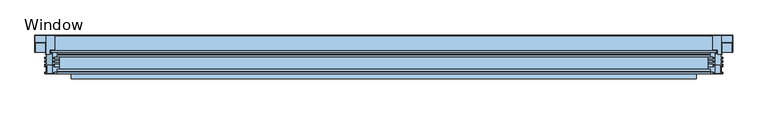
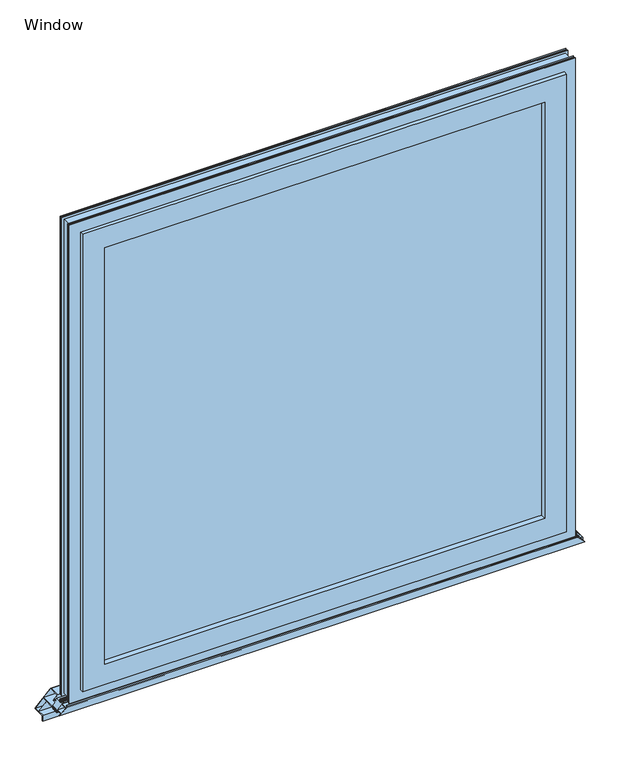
"""IFC4 building model written with IfcOpenShell, lengths in millimetres: window geometry, QO-V-QBISS_Window Module : Window."""

import ifcopenshell
import ifcopenshell.guid

model = None  # the IFC model being written
_history = None  # IfcOwnerHistory: only IFC2X3 demands one
_inside = {}  # id of a spatial element -> (the spatial element, [elements in it])
_under = {}  # id of a project, library or spatial element -> (it, [spatial elements below it])
_declared = {}  # id of a project -> (the project, [libraries it declares])
_typed = {}  # id of a type object -> (the type object, [elements of that type])
_made_of = {}  # id of a material, layer set ... -> (it, [elements and type objects made of it])


def new_model(schema):
    """Start an empty IFC model of exactly this schema.

    Asked for "IFC4X3", IfcOpenShell would pick the latest addendum, in which some entities
    have other attributes; the version numbers below select the first issue.
    IFC2X3 requires an IfcOwnerHistory on every rooted entity: one is made here for all.
    """
    global model, _history
    if schema == "IFC4X3":
        model = ifcopenshell.file(schema_version=(4, 3, 0, 0))
    else:
        model = ifcopenshell.file(schema=schema)
    _inside.clear()
    _under.clear()
    _declared.clear()
    _typed.clear()
    _made_of.clear()
    _history = None
    if model.schema == "IFC2X3":
        org = make("IfcOrganization", Name="unknown")
        user = make(
            "IfcPersonAndOrganization",
            ThePerson=make("IfcPerson", FamilyName="unknown"),
            TheOrganization=org,
        )
        app = make(
            "IfcApplication",
            ApplicationDeveloper=org,
            Version="unknown",
            ApplicationFullName="unknown",
            ApplicationIdentifier="unknown",
        )
        _history = make(
            "IfcOwnerHistory",
            OwningUser=user,
            OwningApplication=app,
            ChangeAction="ADDED",
            CreationDate=0,
        )
    return model


def make(cls, **values):
    """One entity of the class cls with the attributes given. An attribute that is None is left unset."""
    return model.create_entity(
        cls, **{name: value for name, value in values.items() if value is not None}
    )


def rooted(cls, **values):
    """An entity with a GlobalId (a new one), such as an element, a storey or a relation."""
    return make(cls, GlobalId=ifcopenshell.guid.new(), OwnerHistory=_history, **values)


def si_unit(unit_type, name, prefix=None):
    """IfcSIUnit, for example si_unit("LENGTHUNIT", "METRE", prefix="MILLI")."""
    return make("IfcSIUnit", UnitType=unit_type, Prefix=prefix, Name=name)


def assignment(units):
    """IfcUnitAssignment: the units of a project."""
    return None if units is None else make("IfcUnitAssignment", Units=units)


def point(xyz):
    """IfcCartesianPoint."""
    return None if xyz is None else make("IfcCartesianPoint", Coordinates=xyz)


def direction(xyz):
    """IfcDirection."""
    return None if xyz is None else make("IfcDirection", DirectionRatios=xyz)


def frame(location, z_axis=None, x_axis=None):
    """IfcAxis2Placement3D, a coordinate frame: its origin and axes. An axis left out is left unset."""
    return make(
        "IfcAxis2Placement3D",
        Location=point(location),
        Axis=direction(z_axis),
        RefDirection=direction(x_axis),
    )


def origin():
    """The frame at (0, 0, 0) with its axes left unset."""
    return frame((0.0, 0.0, 0.0))


def place(relative_to, where):
    """IfcLocalPlacement: puts the frame where relative to a parent placement (None: the world)."""
    return make(
        "IfcLocalPlacement", PlacementRelTo=relative_to, RelativePlacement=where
    )


def context(
    kind, dimensions, precision=None, world=None, true_north=None, identifier=None
):
    """IfcGeometricRepresentationContext, for example the 3D "Model" context."""
    return make(
        "IfcGeometricRepresentationContext",
        ContextIdentifier=identifier,
        ContextType=kind,
        CoordinateSpaceDimension=dimensions,
        Precision=precision,
        WorldCoordinateSystem=world,
        TrueNorth=true_north,
    )


def project(units=None, contexts=None):
    """IfcProject with its units and contexts."""
    return rooted(
        "IfcProject",
        Name="project",
        RepresentationContexts=contexts,
        UnitsInContext=assignment(units),
    )


def spatial(cls, under=None, at=None, **own):
    """A site, building, storey or space (cls), placed at a placement, below another one or the project."""
    s = rooted(cls, ObjectPlacement=at, **own)
    if under is not None:
        _under.setdefault(under.id(), (under, []))[1].append(s)
    return s


def polyline(points):
    """IfcPolyline through the points."""
    return make("IfcPolyline", Points=[point(p) for p in points])


def ellipse_curve(where, semi_axis1, semi_axis2):
    """IfcEllipse in the frame where."""
    return make(
        "IfcEllipse", Position=where, SemiAxis1=semi_axis1, SemiAxis2=semi_axis2
    )


def outline(outer, holes=None, kind="AREA"):
    """IfcArbitraryClosedProfileDef: a profile drawn as a closed curve; with holes, ...WithVoids."""
    if holes is None:
        return make("IfcArbitraryClosedProfileDef", ProfileType=kind, OuterCurve=outer)
    return make(
        "IfcArbitraryProfileDefWithVoids",
        ProfileType=kind,
        OuterCurve=outer,
        InnerCurves=holes,
    )


def extrude(swept, where, along, depth):
    """IfcExtrudedAreaSolid: the profile swept, set in the frame where, extruded along a direction by depth."""
    return make(
        "IfcExtrudedAreaSolid",
        SweptArea=swept,
        Position=where,
        ExtrudedDirection=direction(along),
        Depth=depth,
    )


def faces_of(points, faces, orient=None, outer=None):
    """IfcFace entities. A face is a list of loops; a loop is a list of indices into points, from 0.

    orient and outer hold one flag for each loop. By default every Orientation is true, the
    first loop of a face is its IfcFaceOuterBound and the others are IfcFaceBound.
    """
    made = []
    for i, loops in enumerate(faces):
        bounds = []
        for j, loop in enumerate(loops):
            is_outer = j == 0 if outer is None else outer[i][j]
            bounds.append(
                make(
                    "IfcFaceOuterBound" if is_outer else "IfcFaceBound",
                    Bound=make("IfcPolyLoop", Polygon=[points[k] for k in loop]),
                    Orientation=True if orient is None else orient[i][j],
                )
            )
        made.append(make("IfcFace", Bounds=bounds))
    return made


def faceted_brep(points, faces, orient=None, outer=None, voids=None):
    """IfcFacetedBrep: a solid bounded by flat faces; with voids (closed shells), ...WithVoids."""
    shared = [point(p) for p in points]
    hull = make("IfcClosedShell", CfsFaces=faces_of(shared, faces, orient, outer))
    if voids is None:
        return make("IfcFacetedBrep", Outer=hull)
    return make(
        "IfcFacetedBrepWithVoids",
        Outer=hull,
        Voids=[
            make(cls, CfsFaces=faces_of(shared, fs, o, b)) for cls, fs, o, b in voids
        ],
    )


def shape(context_of_items, identifier, shape_type, items):
    """IfcShapeRepresentation: the items that make up one representation, for example the "Body"."""
    return make(
        "IfcShapeRepresentation",
        ContextOfItems=context_of_items,
        RepresentationIdentifier=identifier,
        RepresentationType=shape_type,
        Items=items,
    )


def source(mapping_origin, context_of_items, identifier, shape_type, items):
    """IfcRepresentationMap: a shape defined once, which mapped items show again and again."""
    return make(
        "IfcRepresentationMap",
        MappingOrigin=mapping_origin,
        MappedRepresentation=shape(context_of_items, identifier, shape_type, items),
    )


def transform(
    local_origin,
    x_axis=None,
    y_axis=None,
    z_axis=None,
    scale=None,
    scale2=None,
    scale3=None,
    uniform=True,
):
    """IfcCartesianTransformationOperator3D, or its non-uniform kind. x_axis, y_axis, z_axis: its Axis1, 2, 3."""
    if uniform:
        return make(
            "IfcCartesianTransformationOperator3D",
            Axis1=direction(x_axis),
            Axis2=direction(y_axis),
            LocalOrigin=point(local_origin),
            Scale=scale,
            Axis3=direction(z_axis),
        )
    return make(
        "IfcCartesianTransformationOperator3DnonUniform",
        Axis1=direction(x_axis),
        Axis2=direction(y_axis),
        LocalOrigin=point(local_origin),
        Scale=scale,
        Axis3=direction(z_axis),
        Scale2=scale2,
        Scale3=scale3,
    )


def mapped(mapping_source, mapping_target):
    """IfcMappedItem: shows the shape of a source again, moved by a transform."""
    return make(
        "IfcMappedItem", MappingSource=mapping_source, MappingTarget=mapping_target
    )


def made_of(thing, what):
    """Note that an element or type object is made of a material, layer set ...; save() writes the relation."""
    if what is not None:
        _made_of.setdefault(what.id(), (what, []))[1].append(thing)
    return thing


def element(
    cls,
    number,
    at=None,
    inside=None,
    cuts=None,
    type_object=None,
    material=None,
    context=None,
    identifier="Body",
    shape_type=None,
    held_by="IfcProductDefinitionShape",
    body=None,
    shapes=None,
    **own,
):
    """One element of the class cls, such as IfcWall. Its Tag is "e" and its number.

    at: its placement. inside: the storey or other place that contains it. cuts: it is an
    opening in that element (IfcRelVoidsElement). A single representation is given by context,
    identifier, shape_type and body (its items); several are given by shapes. held_by: the class
    of the entity that holds the representations. save() writes the other relations.
    """
    e = rooted(cls, Tag="e%d" % number, ObjectPlacement=at, **own)
    if body is not None:
        shapes = [shape(context, identifier, shape_type, body)]
    if shapes is not None:
        e.Representation = make(held_by, Representations=shapes)
    if inside is not None:
        _inside.setdefault(inside.id(), (inside, []))[1].append(e)
    if cuts is not None:
        rooted(
            "IfcRelVoidsElement", RelatingBuildingElement=cuts, RelatedOpeningElement=e
        )
    if type_object is not None:
        _typed.setdefault(type_object.id(), (type_object, []))[1].append(e)
    return made_of(e, material)


def aggregate(whole, parts):
    """IfcRelAggregates: a whole, such as a stair, and the parts it consists of."""
    return rooted("IfcRelAggregates", RelatingObject=whole, RelatedObjects=parts)


def save(model, path):
    """Write the relations noted so far, then the file.

    IfcRelAggregates (storeys below a building ...), IfcRelContainedInSpatialStructure (elements
    in a storey), IfcRelDefinesByType, IfcRelAssociatesMaterial and IfcRelDeclares: one each for
    every whole, place, type object, material and project.
    """
    for whole, parts in _under.values():
        aggregate(whole, parts)
    for where, things in _inside.values():
        rooted(
            "IfcRelContainedInSpatialStructure",
            RelatedElements=things,
            RelatingStructure=where,
        )
    for kind, things in _typed.values():
        rooted("IfcRelDefinesByType", RelatedObjects=things, RelatingType=kind)
    for what, things in _made_of.values():
        rooted("IfcRelAssociatesMaterial", RelatedObjects=things, RelatingMaterial=what)
    for by, libraries in _declared.values():
        rooted("IfcRelDeclares", RelatingContext=by, RelatedDefinitions=libraries)
    model.write(path)


def plane_surface(at):
    """IfcPlane: the flat surface through the origin of the frame at, square to its z axis."""
    return make("IfcPlane", Position=at)


def cylinder_surface(at, radius):
    """IfcCylindricalSurface: all points at the distance radius from the z axis of the frame at."""
    return make("IfcCylindricalSurface", Position=at, Radius=radius)


def advanced_brep(points, edges, surfaces, faces):
    """IfcAdvancedBrep: a solid bounded by faces that lie on surfaces and meet in shared edges.

    An edge is (start, end): straight between two places in points (the first is 0);
    or (start, end, curve); or (start, end, curve, False) where it runs against its curve.
    A face is (place in surfaces, loops), or (place, loops, False) where it looks against
    its surface's normal. A loop lists edges by number (the first is 1), with a minus sign
    where the edge is run from its end to its start. The first loop is the outer one.
    """
    corners = [point(p) for p in points]
    vertices = [make("IfcVertexPoint", VertexGeometry=c) for c in corners]
    made = []
    for start, end, *more in edges:
        made.append(
            make(
                "IfcEdgeCurve",
                EdgeStart=vertices[start],
                EdgeEnd=vertices[end],
                EdgeGeometry=more[0] if more else make("IfcPolyline", Points=[corners[start], corners[end]]),
                SameSense=more[1] if len(more) > 1 else True,
            )
        )
    hull = []
    for where, loops, *sense in faces:
        bounds = []
        for j, loop in enumerate(loops):
            ring = [make("IfcOrientedEdge", EdgeElement=made[abs(k) - 1], Orientation=k > 0) for k in loop]
            bounds.append(
                make(
                    "IfcFaceOuterBound" if j == 0 else "IfcFaceBound",
                    Bound=make("IfcEdgeLoop", EdgeList=ring),
                    Orientation=True,
                )
            )
        hull.append(make("IfcAdvancedFace", Bounds=bounds, FaceSurface=surfaces[where], SameSense=sense[0] if sense else True))
    return make("IfcAdvancedBrep", Outer=make("IfcClosedShell", CfsFaces=hull))


def window_10a98746(model_context):
    return source(origin(), model_context, "Body", "SolidModel", [
        extrude(outline(polyline([(-835.985256, -85.0037561), (804.985256, -85.0037561), (804.985256, -105.0037561), (-835.985256, -105.0037561), (-835.985256, -85.0037561)])), frame((0.0, 0.0, 180.514744), z_axis=(0.0, 0.0, 1.0), x_axis=(1.0, 0.0, 0.0)), (0.0, 0.0, 1.0), 1638.970512),
        faceted_brep([(833.7021017, -67.0037561, 151.7978983), (833.7021017, -50.0037561, 151.7978983), (833.7021017, -50.0037561, 1848.2021017), (833.7021017, -67.0037561, 1848.2021017), (842.0, -50.0037561, 143.5), (842.0, -67.0037561, 143.5), (842.0, -67.0037561, 1856.5), (842.0, -50.0037561, 1856.5), (910.0, -53.8037561, 75.5), (910.0, -50.0037561, 75.5), (910.0, -50.0037561, 1924.5), (910.0, -53.8037561, 1924.5), (902.0, -57.8037561, 83.5), (902.0, -53.8037561, 83.5), (902.0, -53.8037561, 1916.5), (902.0, -57.8037561, 1916.5), (910.0, -62.1037561, 75.5), (910.0, -57.8037561, 75.5), (910.0, -57.8037561, 1924.5), (910.0, -62.1037561, 1924.5), (902.0, -97.9037561, 83.5), (902.0, -62.1037561, 83.5), (902.0, -62.1037561, 1916.5), (902.0, -97.9037561, 1916.5), (910.0, -102.2037561, 75.5), (910.0, -97.9037561, 75.5), (910.0, -97.9037561, 1924.5), (910.0, -102.2037561, 1924.5), (902.0, -106.2037561, 83.5), (902.0, -102.2037561, 83.5), (902.0, -102.2037561, 1916.5), (902.0, -106.2037561, 1916.5), (910.0, -110.0037561, 75.5), (910.0, -106.2037561, 75.5), (910.0, -106.2037561, 1924.5), (910.0, -110.0037561, 1924.5), (862.0, -98.8037561, 123.5), (862.0, -110.0037561, 123.5), (862.0, -110.0037561, 1876.5), (862.0, -98.8037561, 1876.5), (867.8127684, -62.5037561, 117.6872316), (867.8127684, -98.8037561, 117.6872316), (867.8127684, -98.8037561, 1882.3127684), (867.8127684, -62.5037561, 1882.3127684), (850.0, -114.5037561, 135.5), (850.0, -62.5037561, 135.5), (850.0, -62.5037561, 1864.5), (850.0, -114.5037561, 1864.5), (867.8127684, -110.7626496, 117.6872316), (867.8127684, -114.5037561, 117.6872316), (867.8127684, -114.5037561, 1882.3127684), (867.8127684, -110.7626496, 1882.3127684), (870.0, -124.5037561, 115.5), (870.0, -110.7626496, 115.5), (870.0, -110.7626496, 1884.5), (870.0, -124.5037561, 1884.5), (790.0, -105.0036269, 195.5), (790.0, -124.5037561, 195.5), (790.0, -124.5037561, 1804.5), (790.0, -105.0036269, 1804.5), (804.985256, -85.0036357, 180.514744), (804.985256, -105.0036269, 180.514744), (804.985256, -105.0036269, 1819.485256), (804.985256, -85.0036357, 1819.485256), (790.0, -50.0037561, 195.5), (790.0, -85.0036357, 195.5), (790.0, -85.0036357, 1804.5), (790.0, -50.0037561, 1804.5), (-864.7021017, -50.0037561, 1848.2021017), (-864.7021017, -67.0037561, 1848.2021017), (-873.0, -67.0037561, 1856.5), (-873.0, -50.0037561, 1856.5), (-941.0, -50.0037561, 1924.5), (-941.0, -53.8037561, 1924.5), (-933.0, -53.8037561, 1916.5), (-933.0, -57.8037561, 1916.5), (-941.0, -57.8037561, 1924.5), (-941.0, -62.1037561, 1924.5), (-933.0, -62.1037561, 1916.5), (-933.0, -97.9037561, 1916.5), (-941.0, -97.9037561, 1924.5), (-941.0, -102.2037561, 1924.5), (-933.0, -102.2037561, 1916.5), (-933.0, -106.2037561, 1916.5), (-941.0, -106.2037561, 1924.5), (-941.0, -110.0037561, 1924.5), (-893.0, -110.0037561, 1876.5), (-893.0, -98.8037561, 1876.5), (-898.8127684, -98.8037561, 1882.3127684), (-898.8127684, -62.5037561, 1882.3127684), (-881.0, -62.5037561, 1864.5), (-881.0, -114.5037561, 1864.5), (-898.8127684, -114.5037561, 1882.3127684), (-898.8127684, -110.7626496, 1882.3127684), (-901.0, -110.7626496, 1884.5), (-901.0, -124.5037561, 1884.5), (-821.0, -124.5037561, 1804.5), (-821.0, -105.0036269, 1804.5), (-835.985256, -105.0036269, 1819.485256), (-835.985256, -85.0036357, 1819.485256), (-821.0, -85.0036357, 1804.5), (-821.0, -50.0037561, 1804.5), (-864.7021017, -50.0037561, 151.7978983), (-864.7021017, -67.0037561, 151.7978983), (-873.0, -67.0037561, 143.5), (-873.0, -50.0037561, 143.5), (-941.0, -50.0037561, 75.5), (-941.0, -53.8037561, 75.5), (-933.0, -53.8037561, 83.5), (-933.0, -57.8037561, 83.5), (-941.0, -57.8037561, 75.5), (-941.0, -62.1037561, 75.5), (-933.0, -62.1037561, 83.5), (-933.0, -97.9037561, 83.5), (-941.0, -97.9037561, 75.5), (-941.0, -102.2037561, 75.5), (-933.0, -102.2037561, 83.5), (-933.0, -106.2037561, 83.5), (-941.0, -106.2037561, 75.5), (-941.0, -110.0037561, 75.5), (-893.0, -110.0037561, 123.5), (-893.0, -98.8037561, 123.5), (-898.8127684, -98.8037561, 117.6872316), (-898.8127684, -62.5037561, 117.6872316), (-881.0, -62.5037561, 135.5), (-881.0, -114.5037561, 135.5), (-898.8127684, -114.5037561, 117.6872316), (-898.8127684, -110.7626496, 117.6872316), (-901.0, -110.7626496, 115.5), (-901.0, -124.5037561, 115.5), (-821.0, -124.5037561, 195.5), (-821.0, -105.0036269, 195.5), (-835.985256, -105.0036269, 180.514744), (-835.985256, -85.0036357, 180.514744), (-821.0, -85.0036357, 195.5), (-821.0, -50.0037561, 195.5)], [[[0, 1, 2, 3]], [[4, 5, 6, 7]], [[8, 9, 10, 11]], [[12, 13, 14, 15]], [[16, 17, 18, 19]], [[20, 21, 22, 23]], [[24, 25, 26, 27]], [[28, 29, 30, 31]], [[32, 33, 34, 35]], [[36, 37, 38, 39]], [[40, 41, 42, 43]], [[44, 45, 46, 47]], [[48, 49, 50, 51]], [[52, 53, 54, 55]], [[56, 57, 58, 59]], [[60, 61, 62, 63]], [[64, 65, 66, 67]], [[3, 2, 68, 69]], [[7, 6, 70, 71]], [[11, 10, 72, 73]], [[15, 14, 74, 75]], [[19, 18, 76, 77]], [[23, 22, 78, 79]], [[27, 26, 80, 81]], [[31, 30, 82, 83]], [[35, 34, 84, 85]], [[39, 38, 86, 87]], [[43, 42, 88, 89]], [[47, 46, 90, 91]], [[51, 50, 92, 93]], [[55, 54, 94, 95]], [[59, 58, 96, 97]], [[63, 62, 98, 99]], [[67, 66, 100, 101]], [[69, 68, 102, 103]], [[71, 70, 104, 105]], [[73, 72, 106, 107]], [[75, 74, 108, 109]], [[77, 76, 110, 111]], [[79, 78, 112, 113]], [[81, 80, 114, 115]], [[83, 82, 116, 117]], [[85, 84, 118, 119]], [[87, 86, 120, 121]], [[89, 88, 122, 123]], [[91, 90, 124, 125]], [[93, 92, 126, 127]], [[95, 94, 128, 129]], [[97, 96, 130, 131]], [[99, 98, 132, 133]], [[101, 100, 134, 135]], [[103, 102, 1, 0]], [[5, 104, 70, 6], [3, 69, 103, 0]], [[105, 104, 5, 4]], [[9, 106, 72, 10], [7, 71, 105, 4]], [[107, 106, 9, 8]], [[11, 73, 107, 8], [13, 108, 74, 14]], [[109, 108, 13, 12]], [[17, 110, 76, 18], [15, 75, 109, 12]], [[111, 110, 17, 16]], [[19, 77, 111, 16], [21, 112, 78, 22]], [[113, 112, 21, 20]], [[25, 114, 80, 26], [23, 79, 113, 20]], [[115, 114, 25, 24]], [[27, 81, 115, 24], [29, 116, 82, 30]], [[117, 116, 29, 28]], [[33, 118, 84, 34], [31, 83, 117, 28]], [[119, 118, 33, 32]], [[35, 85, 119, 32], [37, 120, 86, 38]], [[121, 120, 37, 36]], [[41, 122, 88, 42], [39, 87, 121, 36]], [[123, 122, 41, 40]], [[43, 89, 123, 40], [45, 124, 90, 46]], [[125, 124, 45, 44]], [[49, 126, 92, 50], [47, 91, 125, 44]], [[127, 126, 49, 48]], [[53, 128, 94, 54], [51, 93, 127, 48]], [[129, 128, 53, 52]], [[55, 95, 129, 52], [57, 130, 96, 58]], [[131, 130, 57, 56]], [[61, 132, 98, 62], [59, 97, 131, 56]], [[133, 132, 61, 60]], [[63, 99, 133, 60], [65, 134, 100, 66]], [[135, 134, 65, 64]], [[1, 102, 68, 2], [67, 101, 135, 64]]]),
        advanced_brep(
        [(973.0, -48.7, -7.4990835), (973.0, -46.7, -7.4990835), (973.0, -46.7, 12.5), (973.0, -48.7, 12.5), (-1004.0, -46.7, 12.5), (-1004.0, -46.7, -7.4990835), (-1004.0, -48.7, -7.4990835), (-1004.0, -48.7, 12.5), (-970.9523452, -75.0037405, 45.5476548), (-974.4523458, -75.0037405, 42.0476542), (943.4523458, -75.0037405, 42.0476542), (939.9523452, -75.0037405, 45.5476548), (-974.4523458, -76.5037405, 42.0476542), (943.4523458, -76.5037405, 42.0476542), (-975.9523458, -76.5037405, 40.5476542), (944.9523458, -76.5037405, 40.5476542), (-975.9523458, -72.6037405, 40.5476542), (944.9523458, -72.6037405, 40.5476542), (-974.4523458, -72.6037405, 42.0476542), (943.4523458, -72.6037405, 42.0476542), (-974.4523458, -73.8037405, 42.0476542), (943.4523458, -73.8037405, 42.0476542), (-970.9523458, -73.8037405, 45.5476542), (939.9523458, -73.8037405, 45.5476542), (-970.9523458, -65.7037405, 45.5476542), (939.9523458, -65.7037405, 45.5476542), (-974.4523458, -65.7037405, 42.0476542), (943.4523458, -65.7037405, 42.0476542), (-974.4523458, -66.9037405, 42.0476542), (943.4523458, -66.9037405, 42.0476542), (-975.9523458, -66.9037405, 40.5476542), (944.9523458, -66.9037405, 40.5476542), (-975.9523458, -63.0037405, 40.5476542), (944.9523458, -63.0037405, 40.5476542), (-974.4523458, -63.0037405, 42.0476542), (943.4523458, -63.0037405, 42.0476542), (-974.4523458, -64.5037405, 42.0476542), (943.4523458, -64.5037405, 42.0476542), (-970.9523459, -64.5037405, 45.5476541), (939.9523459, -64.5037405, 45.5476541), (-970.9523459, -55.4999986, 45.5476541), (939.9523459, -55.4999986, 45.5476541), (-973.8, -55.4999986, 42.7), (942.8, -55.4999986, 42.7), (-973.8, -22.4, 42.7), (942.8, -22.4, 42.7), (-1001.9990835, -22.4, 14.5009165), (970.9990835, -22.4, 14.5009165), (-1001.9990835, -48.7, 14.5009165), (970.9990835, -48.7, 14.5009165), (-1004.0, -2.0, 12.5), (973.0, -2.0, 12.5), (-1002.0, 0.0, 14.5), (971.0, 0.0, 14.5), (-948.0, 0.0, 68.5), (917.0, 0.0, 68.5), (-946.0, -2.0, 70.5), (915.0, -2.0, 70.5), (-946.0, -43.5, 70.5), (915.0, -43.5, 70.5), (-959.8, -43.5, 56.7), (928.8, -43.5, 56.7), (-959.8, -54.0, 56.7), (928.8, -54.0, 56.7), (-954.4, -54.0, 62.1), (923.4, -54.0, 62.1), (-954.4, -51.0, 62.1), (923.4, -51.0, 62.1), (-956.3, -51.0, 60.2), (925.3, -51.0, 60.2), (-956.3, -49.6, 60.2), (925.3, -49.6, 60.2), (-953.0, -49.6, 63.5), (922.0, -49.6, 63.5), (-953.0, -64.5037405, 63.5), (922.0, -64.5037405, 63.5), (-949.5513133, -64.5037405, 66.9486867), (918.5513133, -64.5037405, 66.9486867), (-949.5513133, -63.0037405, 66.9486867), (918.5513133, -63.0037405, 66.9486867), (-948.0513133, -63.0037405, 68.4486867), (917.0513133, -63.0037405, 68.4486867), (-948.0513133, -66.9037405, 68.4486867), (917.0513133, -66.9037405, 68.4486867), (-949.5513133, -66.9037405, 66.9486867), (918.5513133, -66.9037405, 66.9486867), (-949.5513133, -65.7037405, 66.9486867), (918.5513133, -65.7037405, 66.9486867), (-953.0513133, -65.7037405, 63.4486867), (922.0513133, -65.7037405, 63.4486867), (-953.0513133, -73.8037405, 63.4486867), (922.0513133, -73.8037405, 63.4486867), (-949.5513133, -73.8037405, 66.9486867), (918.5513133, -73.8037405, 66.9486867), (-949.5513133, -72.6037405, 66.9486867), (918.5513133, -72.6037405, 66.9486867), (-948.0513133, -72.6037405, 68.4486867), (917.0513133, -72.6037405, 68.4486867), (-948.0513133, -76.5037405, 68.4486867), (917.0513133, -76.5037405, 68.4486867), (-949.5513133, -76.5037405, 66.9486867), (918.5513133, -76.5037405, 66.9486867), (-949.5513133, -75.0037405, 66.9486867), (918.5513133, -75.0037405, 66.9486867), (-953.0513139, -75.0037405, 63.4486861), (922.0513139, -75.0037405, 63.4486861), (-953.0513139, -84.0037561, 63.4486861), (922.0513139, -84.0037561, 63.4486861), (-949.5018295, -84.0037561, 66.9981705), (918.5018295, -84.0037561, 66.9981705), (-949.5018295, -82.8037561, 66.9981705), (918.5018295, -82.8037561, 66.9981705), (-948.0018295, -82.8037561, 68.4981705), (917.0018295, -82.8037561, 68.4981705), (-948.0018295, -89.5037561, 68.4981705), (917.0018295, -89.5037561, 68.4981705), (-949.5018295, -89.5037561, 66.9981705), (918.5018295, -89.5037561, 66.9981705), (-949.5018295, -85.7037561, 66.9981705), (918.5018295, -85.7037561, 66.9981705), (-952.8018295, -85.7037561, 63.6981705), (921.8018295, -85.7037561, 63.6981705), (-952.8018295, -108.3037561, 63.6981705), (921.8018295, -108.3037561, 63.6981705), (-949.5018295, -108.3037561, 66.9981705), (918.5018295, -108.3037561, 66.9981705), (-949.5018295, -105.5037561, 66.9981705), (918.5018295, -105.5037561, 66.9981705), (-948.0018295, -105.5037561, 68.4981705), (917.0018295, -105.5037561, 68.4981705), (-948.0018295, -110.0037561, 68.4981705), (917.0018295, -110.0037561, 68.4981705), (-976.0018295, -110.0037561, 40.4981705), (945.0018295, -110.0037561, 40.4981705), (-976.0018295, -105.5037561, 40.4981705), (945.0018295, -105.5037561, 40.4981705), (-974.5018295, -105.5037561, 41.9981705), (943.5018295, -105.5037561, 41.9981705), (-974.5018295, -108.3037561, 41.9981705), (943.5018295, -108.3037561, 41.9981705), (-971.2018295, -108.3037561, 45.2981705), (940.2018295, -108.3037561, 45.2981705), (-971.2018295, -85.7037561, 45.2981705), (940.2018295, -85.7037561, 45.2981705), (-974.5018295, -85.7037561, 41.9981705), (943.5018295, -85.7037561, 41.9981705), (-974.5018295, -89.5037561, 41.9981705), (943.5018295, -89.5037561, 41.9981705), (-976.0018295, -89.5037561, 40.4981705), (945.0018295, -89.5037561, 40.4981705), (-976.0018295, -82.8037561, 40.4981705), (945.0018295, -82.8037561, 40.4981705), (-974.5018295, -82.8037561, 41.9981705), (943.5018295, -82.8037561, 41.9981705), (-974.5018295, -84.0037561, 41.9981705), (943.5018295, -84.0037561, 41.9981705), (-970.9523452, -84.0037561, 45.5476548), (939.9523452, -84.0037561, 45.5476548), (-973.8, -1.5, 42.7), (-1002.5, -1.5, 14.0), (971.5, -1.5, 14.0), (942.8, -1.5, 42.7), (-1002.5, -20.7, 14.0), (971.5, -20.7, 14.0), (-973.8, -20.7, 42.7), (942.8, -20.7, 42.7), (-961.8, -41.5, 54.7), (-947.7, -41.5, 68.8), (916.7, -41.5, 68.8), (930.8, -41.5, 54.7), (-947.7, -1.5, 68.8), (916.7, -1.5, 68.8), (-972.1, -1.5, 44.4), (941.1, -1.5, 44.4), (-972.1, -54.0, 44.4), (941.1, -54.0, 44.4), (-961.8, -54.0, 54.7), (930.8, -54.0, 54.7), (-954.7018295, -108.3037561, 61.7981705), (-954.7018295, -85.7037561, 61.7981705), (923.7018295, -85.7037561, 61.7981705), (923.7018295, -108.3037561, 61.7981705), (-969.3018295, -85.7037561, 47.1981705), (938.3018295, -85.7037561, 47.1981705), (-969.3018295, -108.3037561, 47.1981705), (938.3018295, -108.3037561, 47.1981705)],
        [
            (0, 1),
            (1, 2),
            (2, 3),
            (3, 0),
            (4, 5),
            (5, 6),
            (6, 7),
            (7, 4),
            (8, 9),
            (9, 10),
            (10, 11),
            (11, 8),
            (9, 12),
            (12, 13),
            (13, 10),
            (12, 14),
            (14, 15),
            (15, 13),
            (14, 16),
            (16, 17),
            (17, 15),
            (16, 18),
            (18, 19),
            (19, 17),
            (18, 20),
            (20, 21),
            (21, 19),
            (20, 22),
            (22, 23),
            (23, 21),
            (22, 24),
            (24, 25),
            (25, 23),
            (24, 26),
            (26, 27),
            (27, 25),
            (26, 28),
            (28, 29),
            (29, 27),
            (28, 30),
            (30, 31),
            (31, 29),
            (30, 32),
            (32, 33),
            (33, 31),
            (32, 34),
            (34, 35),
            (35, 33),
            (34, 36),
            (36, 37),
            (37, 35),
            (36, 38),
            (38, 39),
            (39, 37),
            (38, 40),
            (40, 41),
            (41, 39),
            (40, 42),
            (42, 43),
            (43, 41),
            (42, 44),
            (44, 45),
            (45, 43),
            (44, 46),
            (46, 47),
            (47, 45),
            (46, 48),
            (48, 49),
            (49, 47),
            (6, 0),
            (3, 49),
            (48, 7),
            (5, 1),
            (4, 2),
            (4, 50),
            (50, 51),
            (51, 2),
            (50, 52, ellipse_curve(frame((-1002.0, -2.0, 14.5), z_axis=(0.7071067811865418, 0.0, -0.7071067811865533), x_axis=(0.7071067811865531, 0.0, 0.7071067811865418)), 2.8284271, 2.0)),
            (52, 53),
            (53, 51, ellipse_curve(frame((971.0, -2.0, 14.5), z_axis=(-0.7071067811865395, 0.0, -0.7071067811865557), x_axis=(0.7071067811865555, 0.0, -0.7071067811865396)), 2.8284271, 2.0)),
            (52, 54),
            (54, 55),
            (55, 53),
            (54, 56, ellipse_curve(frame((-948.0, -2.0, 68.5), z_axis=(0.7071067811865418, 0.0, -0.7071067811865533), x_axis=(0.7071067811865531, 0.0, 0.7071067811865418)), 2.8284271, 2.0)),
            (56, 57),
            (57, 55, ellipse_curve(frame((917.0, -2.0, 68.5), z_axis=(-0.7071067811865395, 0.0, -0.7071067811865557), x_axis=(0.7071067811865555, 0.0, -0.7071067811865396)), 2.8284271, 2.0)),
            (56, 58),
            (58, 59),
            (59, 57),
            (58, 60),
            (60, 61),
            (61, 59),
            (60, 62),
            (62, 63),
            (63, 61),
            (62, 64),
            (64, 65),
            (65, 63),
            (64, 66),
            (66, 67),
            (67, 65),
            (66, 68),
            (68, 69),
            (69, 67),
            (68, 70),
            (70, 71),
            (71, 69),
            (70, 72),
            (72, 73),
            (73, 71),
            (72, 74),
            (74, 75),
            (75, 73),
            (74, 76),
            (76, 77),
            (77, 75),
            (76, 78),
            (78, 79),
            (79, 77),
            (78, 80),
            (80, 81),
            (81, 79),
            (80, 82),
            (82, 83),
            (83, 81),
            (82, 84),
            (84, 85),
            (85, 83),
            (84, 86),
            (86, 87),
            (87, 85),
            (86, 88),
            (88, 89),
            (89, 87),
            (88, 90),
            (90, 91),
            (91, 89),
            (90, 92),
            (92, 93),
            (93, 91),
            (92, 94),
            (94, 95),
            (95, 93),
            (94, 96),
            (96, 97),
            (97, 95),
            (96, 98),
            (98, 99),
            (99, 97),
            (98, 100),
            (100, 101),
            (101, 99),
            (100, 102),
            (102, 103),
            (103, 101),
            (102, 104),
            (104, 105),
            (105, 103),
            (104, 106),
            (106, 107),
            (107, 105),
            (106, 108),
            (108, 109),
            (109, 107),
            (108, 110),
            (110, 111),
            (111, 109),
            (110, 112),
            (112, 113),
            (113, 111),
            (112, 114),
            (114, 115),
            (115, 113),
            (114, 116),
            (116, 117),
            (117, 115),
            (116, 118),
            (118, 119),
            (119, 117),
            (118, 120),
            (120, 121),
            (121, 119),
            (120, 122),
            (122, 123),
            (123, 121),
            (122, 124),
            (124, 125),
            (125, 123),
            (124, 126),
            (126, 127),
            (127, 125),
            (126, 128),
            (128, 129),
            (129, 127),
            (128, 130),
            (130, 131),
            (131, 129),
            (130, 132),
            (132, 133),
            (133, 131),
            (132, 134),
            (134, 135),
            (135, 133),
            (134, 136),
            (136, 137),
            (137, 135),
            (136, 138),
            (138, 139),
            (139, 137),
            (138, 140),
            (140, 141),
            (141, 139),
            (140, 142),
            (142, 143),
            (143, 141),
            (142, 144),
            (144, 145),
            (145, 143),
            (144, 146),
            (146, 147),
            (147, 145),
            (146, 148),
            (148, 149),
            (149, 147),
            (148, 150),
            (150, 151),
            (151, 149),
            (150, 152),
            (152, 153),
            (153, 151),
            (152, 154),
            (154, 155),
            (155, 153),
            (154, 156),
            (156, 157),
            (157, 155),
            (156, 8),
            (11, 157),
            (158, 159),
            (159, 160),
            (160, 161),
            (161, 158),
            (159, 162),
            (162, 163),
            (163, 160),
            (162, 164),
            (164, 165),
            (165, 163),
            (164, 158),
            (161, 165),
            (166, 167),
            (167, 168),
            (168, 169),
            (169, 166),
            (167, 170),
            (170, 171),
            (171, 168),
            (170, 172),
            (172, 173),
            (173, 171),
            (172, 174),
            (174, 175),
            (175, 173),
            (174, 176),
            (176, 177),
            (177, 175),
            (176, 166),
            (169, 177),
            (178, 179),
            (179, 180),
            (180, 181),
            (181, 178),
            (179, 182),
            (182, 183),
            (183, 180),
            (182, 184),
            (184, 185),
            (185, 183),
            (184, 178),
            (181, 185),
        ],
        [
            plane_surface(frame((973.0, 0.0, 0.0), z_axis=(1.0, 0.0, 0.0), x_axis=(0.0, -1.0, 0.0))),
            plane_surface(frame((-1004.0, 0.0, 0.0), z_axis=(-1.0, 0.0, 0.0), x_axis=(0.0, -1.0, 0.0))),
            plane_surface(frame((973.0, -75.0037405, 45.5476548), z_axis=(0.0, -1.0, 0.0), x_axis=(-1.0, 0.0, 0.0))),
            plane_surface(frame((973.0, -75.0037405, 42.0476542), z_axis=(0.0, 0.0, 1.0), x_axis=(-1.0, 0.0, 0.0))),
            plane_surface(frame((973.0, -76.5037405, 42.0476542), z_axis=(0.0, -1.0, 0.0), x_axis=(-1.0, 0.0, 0.0))),
            plane_surface(frame((973.0, -76.5037405, 40.5476542), z_axis=(0.0, 0.0, -1.0), x_axis=(-1.0, 0.0, 0.0))),
            plane_surface(frame((973.0, -72.6037405, 40.5476542), z_axis=(0.0, 1.0, 0.0), x_axis=(-1.0, 0.0, 0.0))),
            plane_surface(frame((973.0, -72.6037405, 42.0476542), z_axis=(0.0, 0.0, 1.0), x_axis=(-1.0, 0.0, 0.0))),
            plane_surface(frame((973.0, -73.8037405, 42.0476542), z_axis=(0.0, 1.0, 0.0), x_axis=(-1.0, 0.0, 0.0))),
            plane_surface(frame((973.0, -73.8037405, 45.5476542), z_axis=(0.0, 0.0, -1.0), x_axis=(-1.0, 0.0, 0.0))),
            plane_surface(frame((973.0, -65.7037405, 45.5476542), z_axis=(0.0, -1.0, 0.0), x_axis=(-1.0, 0.0, 0.0))),
            plane_surface(frame((973.0, -65.7037405, 42.0476542), z_axis=(0.0, 0.0, 1.0), x_axis=(-1.0, 0.0, 0.0))),
            plane_surface(frame((973.0, -66.9037405, 42.0476542), z_axis=(0.0, -1.0, 0.0), x_axis=(-1.0, 0.0, 0.0))),
            plane_surface(frame((973.0, -66.9037405, 40.5476542), z_axis=(0.0, 0.0, -1.0), x_axis=(-1.0, 0.0, 0.0))),
            plane_surface(frame((973.0, -63.0037405, 40.5476542), z_axis=(0.0, 1.0, 0.0), x_axis=(-1.0, 0.0, 0.0))),
            plane_surface(frame((973.0, -63.0037405, 42.0476542), z_axis=(0.0, 0.0, 1.0), x_axis=(-1.0, 0.0, 0.0))),
            plane_surface(frame((973.0, -64.5037405, 42.0476542), z_axis=(0.0, 1.0, 0.0), x_axis=(-1.0, 0.0, 0.0))),
            plane_surface(frame((973.0, -64.5037405, 45.5476541), z_axis=(0.0, 0.0, -1.0), x_axis=(-1.0, 0.0, 0.0))),
            plane_surface(frame((973.0, -55.4999986, 45.5476541), z_axis=(0.0, -1.0, 0.0), x_axis=(-1.0, 0.0, 0.0))),
            plane_surface(frame((973.0, -55.4999986, 42.7), z_axis=(0.0, 0.0, -1.0), x_axis=(-1.0, 0.0, 0.0))),
            plane_surface(frame((973.0, -22.4, 42.7), z_axis=(0.0, -1.0, 0.0), x_axis=(-1.0, 0.0, 0.0))),
            plane_surface(frame((973.0, -22.4, 14.5009165), z_axis=(0.0, 0.0, 1.0), x_axis=(-1.0, 0.0, 0.0))),
            plane_surface(frame((973.0, -48.7, 14.5009165), z_axis=(0.0, -1.0, 0.0), x_axis=(-1.0, 0.0, 0.0))),
            plane_surface(frame((973.0, -48.7, -7.4990835), z_axis=(0.0, 0.0, -1.0), x_axis=(-1.0, 0.0, 0.0))),
            plane_surface(frame((973.0, -46.7, -7.4990835), z_axis=(0.0, 1.0, 0.0), x_axis=(-1.0, 0.0, 0.0))),
            plane_surface(frame((973.0, -46.7, 12.5), z_axis=(0.0, 0.0, -1.0), x_axis=(-1.0, 0.0, 0.0))),
            cylinder_surface(frame((973.0, -2.0, 14.5), z_axis=(1.0, 0.0, 0.0), x_axis=(0.0, -1.0, 0.0)), 2.0),
            plane_surface(frame((973.0, 0.0, 14.5), z_axis=(0.0, 1.0, 0.0), x_axis=(-1.0, 0.0, 0.0))),
            cylinder_surface(frame((973.0, -2.0, 68.5), z_axis=(1.0, 0.0, 0.0), x_axis=(0.0, -1.0, 0.0)), 2.0),
            plane_surface(frame((973.0, -2.0, 70.5), z_axis=(0.0, 0.0, 1.0), x_axis=(-1.0, 0.0, 0.0))),
            plane_surface(frame((973.0, -43.5, 70.5), z_axis=(0.0, -1.0, 0.0), x_axis=(-1.0, 0.0, 0.0))),
            plane_surface(frame((973.0, -43.5, 56.7), z_axis=(0.0, 0.0, 1.0), x_axis=(-1.0, 0.0, 0.0))),
            plane_surface(frame((973.0, -54.0, 56.7), z_axis=(0.0, 1.0, 0.0), x_axis=(-1.0, 0.0, 0.0))),
            plane_surface(frame((973.0, -54.0, 62.1), z_axis=(0.0, 0.0, -1.0), x_axis=(-1.0, 0.0, 0.0))),
            plane_surface(frame((973.0, -51.0, 62.1), z_axis=(0.0, -1.0, 0.0), x_axis=(-1.0, 0.0, 0.0))),
            plane_surface(frame((973.0, -51.0, 60.2), z_axis=(0.0, 0.0, -1.0), x_axis=(-1.0, 0.0, 0.0))),
            plane_surface(frame((973.0, -49.6, 60.2), z_axis=(0.0, 1.0, 0.0), x_axis=(-1.0, 0.0, 0.0))),
            plane_surface(frame((973.0, -49.6, 63.5), z_axis=(0.0, 0.0, 1.0), x_axis=(-1.0, 0.0, 0.0))),
            plane_surface(frame((973.0, -64.5037405, 63.5), z_axis=(0.0, 1.0, 0.0), x_axis=(-1.0, 0.0, 0.0))),
            plane_surface(frame((973.0, -64.5037405, 66.9486867), z_axis=(0.0, 0.0, -1.0), x_axis=(-1.0, 0.0, 0.0))),
            plane_surface(frame((973.0, -63.0037405, 66.9486867), z_axis=(0.0, 1.0, 0.0), x_axis=(-1.0, 0.0, 0.0))),
            plane_surface(frame((973.0, -63.0037405, 68.4486867), z_axis=(0.0, 0.0, 1.0), x_axis=(-1.0, 0.0, 0.0))),
            plane_surface(frame((973.0, -66.9037405, 68.4486867), z_axis=(0.0, -1.0, 0.0), x_axis=(-1.0, 0.0, 0.0))),
            plane_surface(frame((973.0, -66.9037405, 66.9486867), z_axis=(0.0, 0.0, -1.0), x_axis=(-1.0, 0.0, 0.0))),
            plane_surface(frame((973.0, -65.7037405, 66.9486867), z_axis=(0.0, -1.0, 0.0), x_axis=(-1.0, 0.0, 0.0))),
            plane_surface(frame((973.0, -65.7037405, 63.4486867), z_axis=(0.0, 0.0, 1.0), x_axis=(-1.0, 0.0, 0.0))),
            plane_surface(frame((973.0, -73.8037405, 63.4486867), z_axis=(0.0, 1.0, 0.0), x_axis=(-1.0, 0.0, 0.0))),
            plane_surface(frame((973.0, -73.8037405, 66.9486867), z_axis=(0.0, 0.0, -1.0), x_axis=(-1.0, 0.0, 0.0))),
            plane_surface(frame((973.0, -72.6037405, 66.9486867), z_axis=(0.0, 1.0, 0.0), x_axis=(-1.0, 0.0, 0.0))),
            plane_surface(frame((973.0, -72.6037405, 68.4486867), z_axis=(0.0, 0.0, 1.0), x_axis=(-1.0, 0.0, 0.0))),
            plane_surface(frame((973.0, -76.5037405, 68.4486867), z_axis=(0.0, -1.0, 0.0), x_axis=(-1.0, 0.0, 0.0))),
            plane_surface(frame((973.0, -76.5037405, 66.9486867), z_axis=(0.0, 0.0, -1.0), x_axis=(-1.0, 0.0, 0.0))),
            plane_surface(frame((973.0, -75.0037405, 66.9486867), z_axis=(0.0, -1.0, 0.0), x_axis=(-1.0, 0.0, 0.0))),
            plane_surface(frame((973.0, -75.0037405, 63.4486861), z_axis=(0.0, 0.0, 1.0), x_axis=(-1.0, 0.0, 0.0))),
            plane_surface(frame((973.0, -84.0037561, 63.4486861), z_axis=(0.0, 1.0, 0.0), x_axis=(-1.0, 0.0, 0.0))),
            plane_surface(frame((973.0, -84.0037561, 66.9981705), z_axis=(0.0, 0.0, -1.0), x_axis=(-1.0, 0.0, 0.0))),
            plane_surface(frame((973.0, -82.8037561, 66.9981705), z_axis=(0.0, 1.0, 0.0), x_axis=(-1.0, 0.0, 0.0))),
            plane_surface(frame((973.0, -82.8037561, 68.4981705), z_axis=(0.0, 0.0, 1.0), x_axis=(-1.0, 0.0, 0.0))),
            plane_surface(frame((973.0, -89.5037561, 68.4981705), z_axis=(0.0, -1.0, 0.0), x_axis=(-1.0, 0.0, 0.0))),
            plane_surface(frame((973.0, -89.5037561, 66.9981705), z_axis=(0.0, 0.0, -1.0), x_axis=(-1.0, 0.0, 0.0))),
            plane_surface(frame((973.0, -85.7037561, 66.9981705), z_axis=(0.0, -1.0, 0.0), x_axis=(-1.0, 0.0, 0.0))),
            plane_surface(frame((973.0, -85.7037561, 63.6981705), z_axis=(0.0, 0.0, 1.0), x_axis=(-1.0, 0.0, 0.0))),
            plane_surface(frame((973.0, -108.3037561, 63.6981705), z_axis=(0.0, 1.0, 0.0), x_axis=(-1.0, 0.0, 0.0))),
            plane_surface(frame((973.0, -108.3037561, 66.9981705), z_axis=(0.0, 0.0, -1.0), x_axis=(-1.0, 0.0, 0.0))),
            plane_surface(frame((973.0, -105.5037561, 66.9981705), z_axis=(0.0, 1.0, 0.0), x_axis=(-1.0, 0.0, 0.0))),
            plane_surface(frame((973.0, -105.5037561, 68.4981705), z_axis=(0.0, 0.0, 1.0), x_axis=(-1.0, 0.0, 0.0))),
            plane_surface(frame((973.0, -110.0037561, 68.4981705), z_axis=(0.0, -1.0, 0.0), x_axis=(-1.0, 0.0, 0.0))),
            plane_surface(frame((973.0, -110.0037561, 40.4981705), z_axis=(0.0, 0.0, -1.0), x_axis=(-1.0, 0.0, 0.0))),
            plane_surface(frame((973.0, -105.5037561, 40.4981705), z_axis=(0.0, 1.0, 0.0), x_axis=(-1.0, 0.0, 0.0))),
            plane_surface(frame((973.0, -105.5037561, 41.9981705), z_axis=(0.0, 0.0, 1.0), x_axis=(-1.0, 0.0, 0.0))),
            plane_surface(frame((973.0, -108.3037561, 41.9981705), z_axis=(0.0, 1.0, 0.0), x_axis=(-1.0, 0.0, 0.0))),
            plane_surface(frame((973.0, -108.3037561, 45.2981705), z_axis=(0.0, 0.0, -1.0), x_axis=(-1.0, 0.0, 0.0))),
            plane_surface(frame((973.0, -85.7037561, 45.2981705), z_axis=(0.0, -1.0, 0.0), x_axis=(-1.0, 0.0, 0.0))),
            plane_surface(frame((973.0, -85.7037561, 41.9981705), z_axis=(0.0, 0.0, 1.0), x_axis=(-1.0, 0.0, 0.0))),
            plane_surface(frame((973.0, -89.5037561, 41.9981705), z_axis=(0.0, -1.0, 0.0), x_axis=(-1.0, 0.0, 0.0))),
            plane_surface(frame((973.0, -89.5037561, 40.4981705), z_axis=(0.0, 0.0, -1.0), x_axis=(-1.0, 0.0, 0.0))),
            plane_surface(frame((973.0, -82.8037561, 40.4981705), z_axis=(0.0, 1.0, 0.0), x_axis=(-1.0, 0.0, 0.0))),
            plane_surface(frame((973.0, -82.8037561, 41.9981705), z_axis=(0.0, 0.0, 1.0), x_axis=(-1.0, 0.0, 0.0))),
            plane_surface(frame((973.0, -84.0037561, 41.9981705), z_axis=(0.0, 1.0, 0.0), x_axis=(-1.0, 0.0, 0.0))),
            plane_surface(frame((973.0, -84.0037561, 45.5476548), z_axis=(0.0, 0.0, -1.0), x_axis=(-1.0, 0.0, 0.0))),
            plane_surface(frame((973.0, -1.5, 42.7), z_axis=(0.0, -1.0, 0.0), x_axis=(-1.0, 0.0, 0.0))),
            plane_surface(frame((973.0, -1.5, 14.0), z_axis=(0.0, 0.0, 1.0), x_axis=(-1.0, 0.0, 0.0))),
            plane_surface(frame((973.0, -20.7, 14.0), z_axis=(0.0, 1.0, 0.0), x_axis=(-1.0, 0.0, 0.0))),
            plane_surface(frame((973.0, -20.7, 42.7), z_axis=(0.0, 0.0, -1.0), x_axis=(-1.0, 0.0, 0.0))),
            plane_surface(frame((973.0, -41.5, 54.7), z_axis=(0.0, 1.0, 0.0), x_axis=(-1.0, 0.0, 0.0))),
            plane_surface(frame((973.0, -41.5, 68.8), z_axis=(0.0, 0.0, -1.0), x_axis=(-1.0, 0.0, 0.0))),
            plane_surface(frame((973.0, -1.5, 68.8), z_axis=(0.0, -1.0, 0.0), x_axis=(-1.0, 0.0, 0.0))),
            plane_surface(frame((973.0, -1.5, 44.4), z_axis=(0.0, 0.0, 1.0), x_axis=(-1.0, 0.0, 0.0))),
            plane_surface(frame((973.0, -54.0, 44.4), z_axis=(0.0, 1.0, 0.0), x_axis=(-1.0, 0.0, 0.0))),
            plane_surface(frame((973.0, -54.0, 54.7), z_axis=(0.0, 0.0, -1.0), x_axis=(-1.0, 0.0, 0.0))),
            plane_surface(frame((973.0, -108.3037561, 61.7981705), z_axis=(0.0, 0.0, -1.0), x_axis=(-1.0, 0.0, 0.0))),
            plane_surface(frame((973.0, -85.7037561, 61.7981705), z_axis=(0.0, -1.0, 0.0), x_axis=(-1.0, 0.0, 0.0))),
            plane_surface(frame((973.0, -85.7037561, 47.1981705), z_axis=(0.0, 0.0, 1.0), x_axis=(-1.0, 0.0, 0.0))),
            plane_surface(frame((973.0, -108.3037561, 47.1981705), z_axis=(0.0, 1.0, 0.0), x_axis=(-1.0, 0.0, 0.0))),
            plane_surface(frame((-1004.0, -180.0, 12.5), z_axis=(-0.7071067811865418, 0.0, 0.7071067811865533), x_axis=(0.0, 1.0, 0.0))),
            plane_surface(frame((915.0, -180.0, 70.5), z_axis=(0.7071067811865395, 0.0, 0.7071067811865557), x_axis=(0.0, 1.0, 0.0))),
        ],
        [
            (0, [[1, 2, 3, 4]]),
            (1, [[5, 6, 7, 8]]),
            (2, [[9, 10, 11, 12]]),
            (3, [[13, 14, 15, -10]]),
            (4, [[16, 17, 18, -14]]),
            (5, [[19, 20, 21, -17]]),
            (6, [[22, 23, 24, -20]]),
            (7, [[25, 26, 27, -23]]),
            (8, [[28, 29, 30, -26]]),
            (9, [[31, 32, 33, -29]]),
            (10, [[34, 35, 36, -32]]),
            (11, [[37, 38, 39, -35]]),
            (12, [[40, 41, 42, -38]]),
            (13, [[43, 44, 45, -41]]),
            (14, [[46, 47, 48, -44]]),
            (15, [[49, 50, 51, -47]]),
            (16, [[52, 53, 54, -50]]),
            (17, [[55, 56, 57, -53]]),
            (18, [[58, 59, 60, -56]]),
            (19, [[61, 62, 63, -59]]),
            (20, [[64, 65, 66, -62]]),
            (21, [[67, 68, 69, -65]]),
            (22, [[70, -4, 71, -68, 72, -7]]),
            (23, [[-1, -70, -6, 73]]),
            (24, [[-2, -73, -5, 74]]),
            (25, [[-74, 75, 76, 77]]),
            (26, [[-76, 78, 79, 80]]),
            (27, [[81, 82, 83, -79]]),
            (28, [[84, 85, 86, -82]]),
            (29, [[87, 88, 89, -85]]),
            (30, [[90, 91, 92, -88]]),
            (31, [[93, 94, 95, -91]]),
            (32, [[96, 97, 98, -94]]),
            (33, [[99, 100, 101, -97]]),
            (34, [[102, 103, 104, -100]]),
            (35, [[105, 106, 107, -103]]),
            (36, [[108, 109, 110, -106]]),
            (37, [[111, 112, 113, -109]]),
            (38, [[114, 115, 116, -112]]),
            (39, [[117, 118, 119, -115]]),
            (40, [[120, 121, 122, -118]]),
            (41, [[123, 124, 125, -121]]),
            (42, [[126, 127, 128, -124]]),
            (43, [[129, 130, 131, -127]]),
            (44, [[132, 133, 134, -130]]),
            (45, [[135, 136, 137, -133]]),
            (46, [[138, 139, 140, -136]]),
            (47, [[141, 142, 143, -139]]),
            (48, [[144, 145, 146, -142]]),
            (49, [[147, 148, 149, -145]]),
            (50, [[150, 151, 152, -148]]),
            (51, [[153, 154, 155, -151]]),
            (52, [[156, 157, 158, -154]]),
            (53, [[159, 160, 161, -157]]),
            (54, [[162, 163, 164, -160]]),
            (55, [[165, 166, 167, -163]]),
            (56, [[168, 169, 170, -166]]),
            (57, [[171, 172, 173, -169]]),
            (58, [[174, 175, 176, -172]]),
            (59, [[177, 178, 179, -175]]),
            (60, [[180, 181, 182, -178]]),
            (61, [[183, 184, 185, -181]]),
            (62, [[186, 187, 188, -184]]),
            (63, [[189, 190, 191, -187]]),
            (64, [[192, 193, 194, -190]]),
            (65, [[195, 196, 197, -193]]),
            (66, [[198, 199, 200, -196]]),
            (67, [[201, 202, 203, -199]]),
            (68, [[204, 205, 206, -202]]),
            (69, [[207, 208, 209, -205]]),
            (70, [[210, 211, 212, -208]]),
            (71, [[213, 214, 215, -211]]),
            (72, [[216, 217, 218, -214]]),
            (73, [[219, 220, 221, -217]]),
            (74, [[222, 223, 224, -220]]),
            (75, [[225, 226, 227, -223]]),
            (76, [[228, 229, 230, -226]]),
            (77, [[231, 232, 233, -229]]),
            (78, [[234, 235, 236, -232]]),
            (79, [[237, -12, 238, -235]]),
            (80, [[239, 240, 241, 242]]),
            (81, [[243, 244, 245, -240]]),
            (82, [[246, 247, 248, -244]]),
            (83, [[249, -242, 250, -247]]),
            (84, [[251, 252, 253, 254]]),
            (85, [[255, 256, 257, -252]]),
            (86, [[258, 259, 260, -256]]),
            (87, [[261, 262, 263, -259]]),
            (88, [[264, 265, 266, -262]]),
            (89, [[267, -254, 268, -265]]),
            (90, [[269, 270, 271, 272]]),
            (91, [[273, 274, 275, -270]]),
            (92, [[276, 277, 278, -274]]),
            (93, [[279, -272, 280, -277]]),
            (94, [[-8, -72, -67, -64, -61, -58, -55, -52, -49, -46, -43, -40, -37, -34, -31, -28, -25, -22, -19, -16, -13, -9, -237, -234, -231, -228, -225, -222, -219, -216, -213, -210, -207, -204, -201, -198, -195, -192, -189, -186, -183, -180, -177, -174, -171, -168, -165, -162, -159, -156, -153, -150, -147, -144, -141, -138, -135, -132, -129, -126, -123, -120, -117, -114, -111, -108, -105, -102, -99, -96, -93, -90, -87, -84, -81, -78, -75], [-239, -249, -246, -243], [-251, -267, -264, -261, -258, -255], [-269, -279, -276, -273]]),
            (95, [[-3, -77, -80, -83, -86, -89, -92, -95, -98, -101, -104, -107, -110, -113, -116, -119, -122, -125, -128, -131, -134, -137, -140, -143, -146, -149, -152, -155, -158, -161, -164, -167, -170, -173, -176, -179, -182, -185, -188, -191, -194, -197, -200, -203, -206, -209, -212, -215, -218, -221, -224, -227, -230, -233, -236, -238, -11, -15, -18, -21, -24, -27, -30, -33, -36, -39, -42, -45, -48, -51, -54, -57, -60, -63, -66, -69, -71], [-241, -245, -248, -250], [-253, -257, -260, -263, -266, -268], [-271, -275, -278, -280]]),
        ],
    ),
    ])


if __name__ == "__main__":
    model = new_model("IFC4")
    model_context = context("Model", 3, world=origin())
    ifc_project = project(units=[si_unit("LENGTHUNIT", "METRE", prefix="MILLI")], contexts=[model_context])
    site = spatial("IfcSite", under=ifc_project)
    building = spatial("IfcBuilding", under=site)
    placement = place(None, origin())
    window_shape = window_10a98746(model_context)
    element("IfcWindow", 1, ObjectType="QO-V-QBISS_Window Module : Window", at=placement, inside=building, context=model_context, shape_type="MappedRepresentation", body=[
        mapped(window_shape, transform((0.0, 0.0, 0.0), x_axis=(1.0, 0.0, 0.0), y_axis=(0.0, 1.0, 0.0), z_axis=(0.0, 0.0, 1.0))),
    ])
    save(model, "model.ifc")
